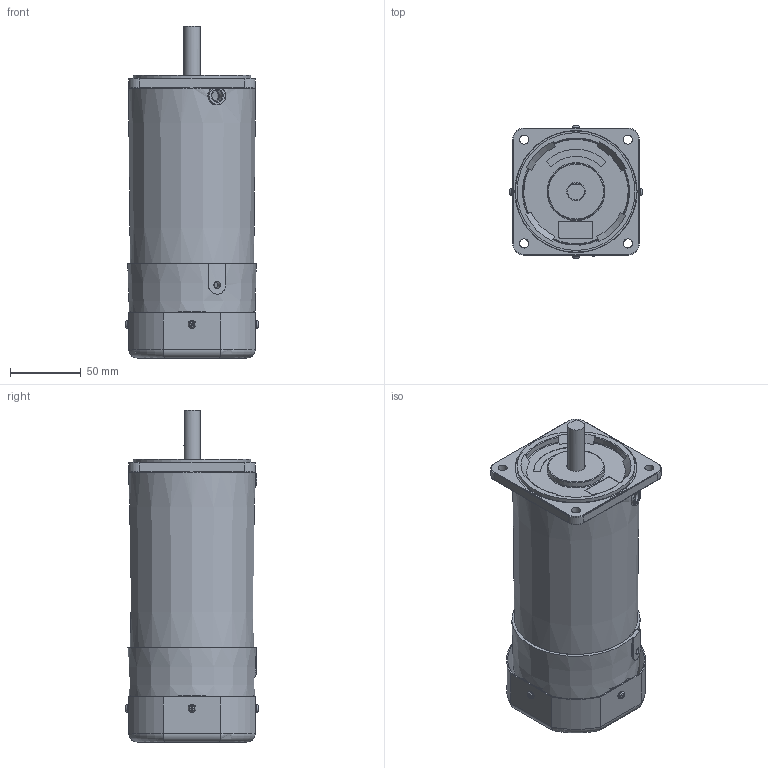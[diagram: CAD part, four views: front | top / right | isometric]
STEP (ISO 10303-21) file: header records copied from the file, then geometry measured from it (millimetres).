
FILE_DESCRIPTION(/* description */ (''),/* implementation_level */ '2;1');
FILE_NAME(/* name */ 'Y:\제품연구개발\4. 개발프로젝트\2. 프로젝트_제품군별\2. STANDARD AC\공유 (이현극)\AC 3D 파일 정리 및 검토\S9I200_-E\S9I200D_-E.stp',/* time_stamp */ '2024-01-09T11:08:46+09:00',/* author */ ('shyi1037'),/* organization */ (''),/* preprocessor_version */ 'ST-DEVELOPER v18.1',/* originating_system */ 'Autodesk Inventor 2022',/* authorisation */ '');
FILE_SCHEMA (('AUTOMOTIVE_DESIGN { 1 0 10303 214 3 1 1 }'));
Length unit declared in the file: millimetre
Products named in the file (1): S9I200D_-E
Bounding box: 94.36 x 94.36 x 235.3 mm (x, y, z)
Volume: 290192.1 mm3; surface area: 188239.8 mm2
Topology: 4 solids, 4 shells, 646 faces, 1677 edges, 1095 vertices
Faces by surface type: plane 256, cylinder 166, cone 87, torus 84, bspline 48, sphere 5
Full cylindrical faces by diameter (mm): 1.5 x12, 2.459 x4, 2.693 x4, 3 x8, 3.5 x4, 5 x5, 6.5 x5, 8 x2, 10 x1, 10.2 x1, 12 x2, 13 x1, 14.9 x1, 15 x1, 19 x2, 26 x1, 28 x1, 29 x1, 34 x1, 40 x1, 44.8 x1, 46 x1, 58.8 x1, 60 x2, 66 x1, 68.4 x1, 70 x1, 80 x1, 83 x1, 83.2 x2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
Entity records: 24631 total; most frequent: CARTESIAN_POINT 7971, ORIENTED_EDGE 3338, DIRECTION 3334, EDGE_CURVE 1669, AXIS2_PLACEMENT_3D 1342, VERTEX_POINT 1095, EDGE_LOOP 772, CIRCLE 711
